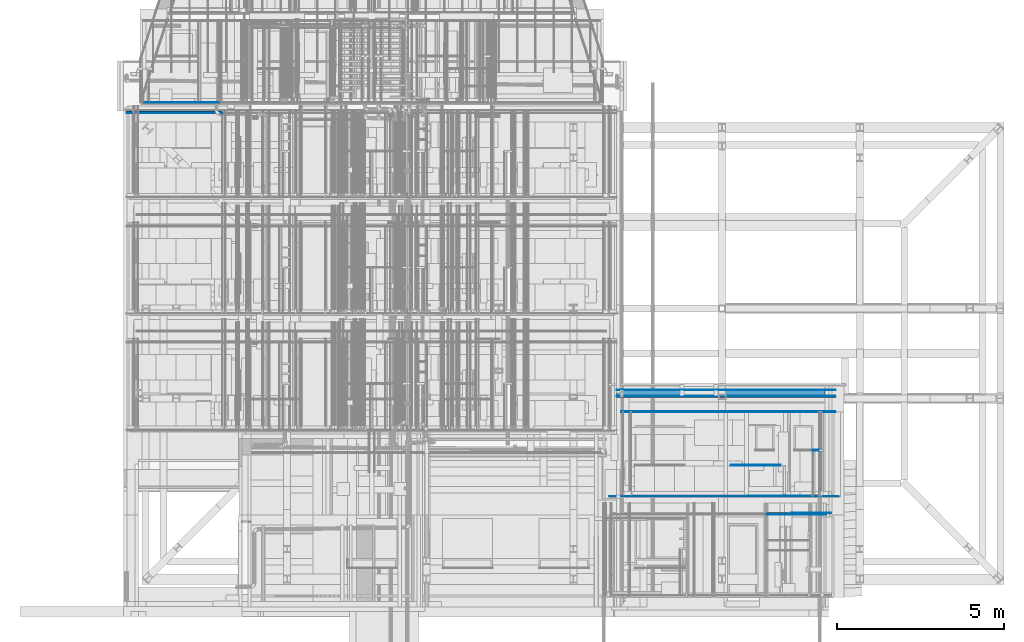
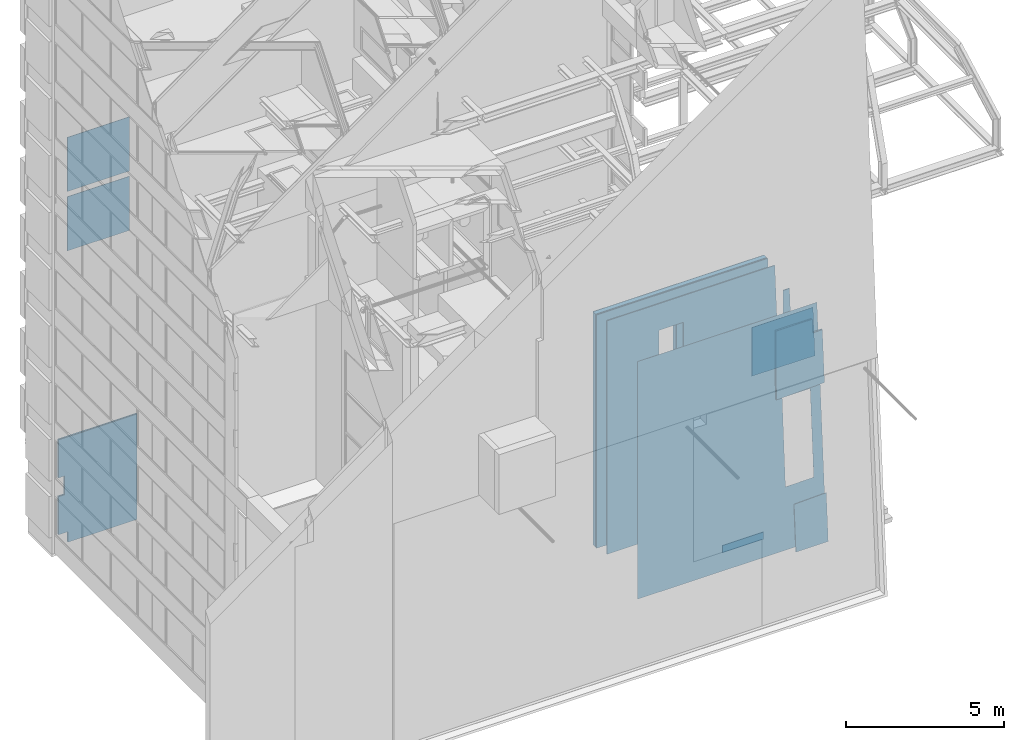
# One storey, part 260 of 583: 20 slabs.
"""IFC2X3 building model written with IfcOpenShell, lengths in metres."""

from ifc_helpers import new_model, entity, si_unit, converted_unit, derived_unit, money_unit, direction, frame, origin_with_axes, place, context, subcontext, project, spatial, faceted_brep, material, type_object, element, save


model = new_model("IFC2X3")

# Units and contexts
model_context = context("Model", 3, precision=1e-05, world=origin_with_axes(), true_north=direction((0.0, 1.0)))
body_context = subcontext(model_context, "Body", "Model", "MODEL_VIEW", scale=1.0)
ifc_project = project(units=[si_unit("LENGTHUNIT", "METRE"), si_unit("AREAUNIT", "SQUARE_METRE"), si_unit("VOLUMEUNIT", "CUBIC_METRE"), si_unit("ABSORBEDDOSEUNIT", "GRAY"), si_unit("AMOUNTOFSUBSTANCEUNIT", "MOLE"), si_unit("DOSEEQUIVALENTUNIT", "SIEVERT"), si_unit("ELECTRICCAPACITANCEUNIT", "FARAD"), si_unit("ELECTRICCHARGEUNIT", "COULOMB"), si_unit("ELECTRICCONDUCTANCEUNIT", "SIEMENS"), si_unit("ELECTRICCURRENTUNIT", "AMPERE"), si_unit("ELECTRICRESISTANCEUNIT", "OHM"), si_unit("ELECTRICVOLTAGEUNIT", "VOLT"), si_unit("ENERGYUNIT", "JOULE"), si_unit("FORCEUNIT", "NEWTON"), si_unit("FREQUENCYUNIT", "HERTZ"), si_unit("ILLUMINANCEUNIT", "LUX"), si_unit("INDUCTANCEUNIT", "HENRY"), si_unit("LUMINOUSFLUXUNIT", "LUMEN"), si_unit("LUMINOUSINTENSITYUNIT", "CANDELA"), si_unit("MAGNETICFLUXDENSITYUNIT", "TESLA"), si_unit("MAGNETICFLUXUNIT", "WEBER"), si_unit("MASSUNIT", "GRAM"), converted_unit("PLANEANGLEUNIT", "degree", entity("IfcReal", 0.0174532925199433), si_unit("PLANEANGLEUNIT", "RADIAN"), dimensions=[0, 0, 0, 0, 0, 0, 0]), si_unit("POWERUNIT", "WATT"), si_unit("PRESSUREUNIT", "PASCAL"), si_unit("RADIOACTIVITYUNIT", "BECQUEREL"), si_unit("SOLIDANGLEUNIT", "STERADIAN"), si_unit("THERMODYNAMICTEMPERATUREUNIT", "KELVIN"), si_unit("TIMEUNIT", "SECOND"), derived_unit("ACCELERATIONUNIT", [(si_unit("LENGTHUNIT", "METRE"), 1), (si_unit("TIMEUNIT", "SECOND"), -2)]), derived_unit("ANGULARVELOCITYUNIT", [(converted_unit("PLANEANGLEUNIT", "degree", entity("IfcReal", 0.0174532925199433), si_unit("PLANEANGLEUNIT", "RADIAN"), dimensions=[0, 0, 0, 0, 0, 0, 0]), 1), (si_unit("TIMEUNIT", "SECOND"), -1)]), derived_unit("CURVATUREUNIT", [(converted_unit("PLANEANGLEUNIT", "degree", entity("IfcReal", 0.0174532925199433), si_unit("PLANEANGLEUNIT", "RADIAN"), dimensions=[0, 0, 0, 0, 0, 0, 0]), 1), (si_unit("LENGTHUNIT", "METRE"), -1)]), derived_unit("DYNAMICVISCOSITYUNIT", [(si_unit("PRESSUREUNIT", "PASCAL"), 1), (si_unit("TIMEUNIT", "SECOND"), 1)]), derived_unit("HEATFLUXDENSITYUNIT", [(si_unit("POWERUNIT", "WATT"), 1), (si_unit("LENGTHUNIT", "METRE"), -2)]), derived_unit("HEATINGVALUEUNIT", [(si_unit("ENERGYUNIT", "JOULE"), 1), (si_unit("MASSUNIT", "GRAM"), -1)]), derived_unit("INTEGERCOUNTRATEUNIT", [(si_unit("TIMEUNIT", "SECOND"), -1)]), derived_unit("IONCONCENTRATIONUNIT", [(si_unit("MASSUNIT", "GRAM"), 1), (si_unit("VOLUMEUNIT", "CUBIC_METRE"), -1)]), derived_unit("ISOTHERMALMOISTURECAPACITYUNIT", [(si_unit("VOLUMEUNIT", "CUBIC_METRE"), 1), (si_unit("MASSUNIT", "GRAM"), -1)]), derived_unit("KINEMATICVISCOSITYUNIT", [(si_unit("AREAUNIT", "SQUARE_METRE"), 1), (si_unit("TIMEUNIT", "SECOND"), -1)]), derived_unit("LINEARFORCEUNIT", [(si_unit("FORCEUNIT", "NEWTON"), 1), (si_unit("LENGTHUNIT", "METRE"), -1)]), derived_unit("LINEARMOMENTUNIT", [(si_unit("FORCEUNIT", "NEWTON"), 1), (si_unit("LENGTHUNIT", "METRE"), -1)]), derived_unit("LINEARSTIFFNESSUNIT", [(si_unit("FORCEUNIT", "NEWTON"), 1), (si_unit("LENGTHUNIT", "METRE"), -1)]), derived_unit("LINEARVELOCITYUNIT", [(si_unit("LENGTHUNIT", "METRE"), 1), (si_unit("TIMEUNIT", "SECOND"), -1)]), derived_unit("LUMINOUSINTENSITYDISTRIBUTIONUNIT", [(si_unit("LUMINOUSINTENSITYUNIT", "CANDELA"), 1), (si_unit("LUMINOUSFLUXUNIT", "LUMEN"), -1)]), derived_unit("MASSDENSITYUNIT", [(si_unit("MASSUNIT", "GRAM"), 1), (si_unit("VOLUMEUNIT", "CUBIC_METRE"), -1)]), derived_unit("MASSFLOWRATEUNIT", [(si_unit("MASSUNIT", "GRAM"), 1), (si_unit("TIMEUNIT", "SECOND"), -1)]), derived_unit("MASSPERLENGTHUNIT", [(si_unit("MASSUNIT", "GRAM"), 1), (si_unit("LENGTHUNIT", "METRE"), -1)]), derived_unit("MODULUSOFELASTICITYUNIT", [(si_unit("FORCEUNIT", "NEWTON"), 1), (si_unit("AREAUNIT", "SQUARE_METRE"), -1)]), derived_unit("MODULUSOFLINEARSUBGRADEREACTIONUNIT", [(si_unit("FORCEUNIT", "NEWTON"), 1), (si_unit("LENGTHUNIT", "METRE"), -2)]), derived_unit("MODULUSOFROTATIONALSUBGRADEREACTIONUNIT", [(si_unit("FORCEUNIT", "NEWTON"), 1), (si_unit("LENGTHUNIT", "METRE"), 1)]), derived_unit("MODULUSOFSUBGRADEREACTIONUNIT", [(si_unit("FORCEUNIT", "NEWTON"), 1), (si_unit("VOLUMEUNIT", "CUBIC_METRE"), -1)]), derived_unit("MOISTUREDIFFUSIVITYUNIT", [(si_unit("VOLUMEUNIT", "CUBIC_METRE"), 1), (si_unit("TIMEUNIT", "SECOND"), -1)]), derived_unit("MOLECULARWEIGHTUNIT", [(si_unit("MASSUNIT", "GRAM"), 1), (si_unit("AMOUNTOFSUBSTANCEUNIT", "MOLE"), -1)]), derived_unit("PLANARFORCEUNIT", [(si_unit("FORCEUNIT", "NEWTON"), 1), (si_unit("LENGTHUNIT", "METRE"), -2)]), derived_unit("ROTATIONALFREQUENCYUNIT", [(si_unit("TIMEUNIT", "SECOND"), -1)]), derived_unit("ROTATIONALMASSUNIT", [(si_unit("MASSUNIT", "GRAM"), 1), (si_unit("LENGTHUNIT", "METRE"), 2)]), derived_unit("ROTATIONALSTIFFNESSUNIT", [(si_unit("FORCEUNIT", "NEWTON"), 1), (si_unit("LENGTHUNIT", "METRE"), 1), (converted_unit("PLANEANGLEUNIT", "degree", entity("IfcReal", 0.0174532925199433), si_unit("PLANEANGLEUNIT", "RADIAN"), dimensions=[0, 0, 0, 0, 0, 0, 0]), -1)]), derived_unit("SECTIONAREAINTEGRALUNIT", [(si_unit("LENGTHUNIT", "METRE"), 5)]), derived_unit("SECTIONMODULUSUNIT", [(si_unit("LENGTHUNIT", "METRE"), 3)]), derived_unit("SHEARMODULUSUNIT", [(si_unit("FORCEUNIT", "NEWTON"), 1), (si_unit("AREAUNIT", "SQUARE_METRE"), -1)]), derived_unit("SOUNDPOWERUNIT", [(si_unit("ENERGYUNIT", "JOULE"), 1), (si_unit("TIMEUNIT", "SECOND"), -1)]), derived_unit("SPECIFICHEATCAPACITYUNIT", [(si_unit("FORCEUNIT", "NEWTON"), 1), (si_unit("MASSUNIT", "GRAM"), -1), (si_unit("THERMODYNAMICTEMPERATUREUNIT", "KELVIN"), -1)]), derived_unit("TEMPERATUREGRADIENTUNIT", [(si_unit("THERMODYNAMICTEMPERATUREUNIT", "KELVIN"), 1), (si_unit("LENGTHUNIT", "METRE"), -1)]), derived_unit("THERMALADMITTANCEUNIT", [(si_unit("POWERUNIT", "WATT"), 1), (si_unit("AREAUNIT", "SQUARE_METRE"), -1), (si_unit("THERMODYNAMICTEMPERATUREUNIT", "KELVIN"), -1)]), derived_unit("THERMALCONDUCTANCEUNIT", [(si_unit("POWERUNIT", "WATT"), 1), (si_unit("LENGTHUNIT", "METRE"), -1), (si_unit("THERMODYNAMICTEMPERATUREUNIT", "KELVIN"), -1)]), derived_unit("THERMALEXPANSIONCOEFFICIENTUNIT", [(si_unit("THERMODYNAMICTEMPERATUREUNIT", "KELVIN"), -1)]), derived_unit("THERMALRESISTANCEUNIT", [(si_unit("AREAUNIT", "SQUARE_METRE"), 1), (si_unit("POWERUNIT", "WATT"), -1)]), derived_unit("THERMALTRANSMITTANCEUNIT", [(si_unit("POWERUNIT", "WATT"), 1), (si_unit("AREAUNIT", "SQUARE_METRE"), -1), (si_unit("THERMODYNAMICTEMPERATUREUNIT", "KELVIN"), -1)]), derived_unit("TORQUEUNIT", [(si_unit("FORCEUNIT", "NEWTON"), 1), (si_unit("LENGTHUNIT", "METRE"), 1)]), derived_unit("VAPORPERMEABILITYUNIT", [(si_unit("MASSUNIT", "GRAM"), 1), (si_unit("TIMEUNIT", "SECOND"), -1)]), derived_unit("VOLUMETRICFLOWRATEUNIT", [(si_unit("VOLUMEUNIT", "CUBIC_METRE"), 1), (si_unit("TIMEUNIT", "SECOND"), -1)]), derived_unit("WARPINGCONSTANTUNIT", [(si_unit("LENGTHUNIT", "METRE"), 6)]), derived_unit("WARPINGMOMENTUNIT", [(si_unit("FORCEUNIT", "NEWTON"), 1), (si_unit("LENGTHUNIT", "METRE"), 2)]), money_unit("GBP")], contexts=[model_context])

# Site, building, storey
site_placement = place(None, origin_with_axes())
site = spatial("IfcSite", under=ifc_project, at=site_placement, Name="Site", CompositionType="ELEMENT")
building_placement = place(site_placement, origin_with_axes())
building = spatial("IfcBuilding", under=site, at=building_placement, Name="Building01", CompositionType="ELEMENT")
storey_placement = place(building_placement, frame((0.0, 0.0, 20.78), z_axis=(0.0, 0.0, 1.0), x_axis=(1.0, 0.0, 0.0)))
storey = spatial("IfcBuildingStorey", under=building, at=storey_placement, Name="RL", CompositionType="ELEMENT", Elevation=20.78)

# Slabs
ifc_material_1 = material(Name="A_BSUK_CeilingSoffitFinishes_Suspended")
slab_type_1 = type_object("IfcSlabType", Name="A-FloorsSlabs A_BSUK_Slabs", PredefinedType="FLOOR")
placement = place(storey_placement, frame((0.0, 0.0, -20.78), z_axis=(0.0, 0.0, 1.0), x_axis=(1.0, 0.0, 0.0)))
element("IfcSlab", 1, at=placement, inside=storey, type_object=slab_type_1, material=ifc_material_1, Name="A-FloorsSlabs A_BSUK_Slabs", ObjectType="CompoundSlabLeaf", context=body_context, shape_type="Brep", body=[
    faceted_brep([(20.061719, 2.648, 0.352897), (20.061719, 2.663, 0.352897), (21.240404, 2.663, 0.352897), (21.240404, 2.648, 0.352897), (19.992487, 2.648, 2.218549), (19.992487, 2.663, 2.218549), (21.074618, 2.648, 2.255765), (21.074618, 2.663, 2.255765), (21.169698, 2.648, 2.259035), (21.169698, 2.663, 2.259035)], [[[0, 1, 2, 3]], [[4, 5, 1, 0]], [[6, 7, 5, 4]], [[8, 9, 7, 6]], [[3, 2, 9, 8]], [[1, 5, 7, 9, 2]], [[3, 8, 6, 4, 0]]]),
])
element("IfcSlab", 2, at=placement, inside=storey, type_object=slab_type_1, material=ifc_material_1, Name="A-FloorsSlabs A_BSUK_Slabs", ObjectType="CompoundSlabLeaf", context=body_context, shape_type="Brep", body=[
    faceted_brep([(21.082305, 2.6125, 6.556698), (21.082305, 2.625, 6.556698), (21.00546, 2.625, 8.628099), (21.00546, 2.6125, 8.628099), (19.325402, 2.6125, 6.497539), (19.325402, 2.625, 6.497539), (19.307574, 2.6125, 9.154265), (19.307574, 2.625, 9.154265), (20.635466, 2.6125, 9.154265), (20.635466, 2.625, 9.154265), (20.65458, 2.6125, 8.611883), (20.65458, 2.625, 8.611883)], [[[0, 1, 2, 3]], [[4, 5, 1, 0]], [[6, 7, 5, 4]], [[8, 9, 7, 6]], [[10, 11, 9, 8]], [[3, 2, 11, 10]], [[1, 5, 7, 9, 11, 2]], [[3, 10, 8, 6, 4, 0]]]),
])
ifc_material_2 = material(Name="A_BSUK_Ceramic_WallTiles")
element("IfcSlab", 3, at=placement, inside=storey, type_object=slab_type_1, material=ifc_material_2, Name="A-FloorsSlabs A_BSUK_Slabs", ObjectType="CompoundSlabLeaf", context=body_context, shape_type="Brep", body=[
    faceted_brep([(20.683903, 4.535, 8.074417), (20.683903, 4.56, 8.074417), (20.953963, 4.56, 8.074417), (20.953963, 4.535, 8.074417), (20.683903, 4.535, 9.082265), (20.683903, 4.56, 9.082265), (20.916574, 4.535, 9.082265), (20.916574, 4.56, 9.082265)], [[[0, 1, 2, 3]], [[4, 5, 1, 0]], [[6, 7, 5, 4]], [[3, 2, 7, 6]], [[1, 5, 7, 2]], [[3, 6, 4, 0]]]),
])
ifc_material_3 = material(Name="A_BSUK_Ceramic_FloorTiles")
element("IfcSlab", 4, at=placement, inside=storey, type_object=slab_type_1, material=ifc_material_3, Name="A-FloorsSlabs A_BSUK_Slabs", ObjectType="CompoundSlabLeaf", context=body_context, shape_type="Brep", body=[
    faceted_brep([(21.056086, 3.17, 7.263451), (21.056086, 3.182, 7.263451), (20.985941, 3.182, 9.154265), (20.985941, 3.17, 9.154265), (18.752607, 3.17, 7.275966), (18.752607, 3.182, 7.275966), (18.752607, 3.17, 9.154265), (18.752607, 3.182, 9.154265)], [[[0, 1, 2, 3]], [[4, 5, 1, 0]], [[6, 7, 5, 4]], [[3, 2, 7, 6]], [[1, 5, 7, 2]], [[3, 6, 4, 0]]]),
])
ifc_material_4 = material(Name="A_BSUK_Timber_Miscellaneous")
element("IfcSlab", 5, at=placement, inside=storey, type_object=slab_type_1, material=ifc_material_4, Name="A-FloorsSlabs A_BSUK_Slabs", ObjectType="CompoundSlabLeaf", context=body_context, shape_type="Brep", body=[
    faceted_brep([(19.714248, 4.085, 0.103351), (19.714248, 4.11, 0.103351), (19.714248, 4.11, 0.383679), (19.714248, 4.085, 0.383679), (18.214248, 4.085, 0.103351), (18.214248, 4.11, 0.103351), (18.214248, 4.085, 0.383679), (18.214248, 4.11, 0.383679)], [[[0, 1, 2, 3]], [[4, 5, 1, 0]], [[6, 7, 5, 4]], [[3, 2, 7, 6]], [[1, 5, 7, 2]], [[3, 6, 4, 0]]]),
])
ifc_material_5 = material(Name="A_BSUK_Insulation")
element("IfcSlab", 6, at=placement, inside=storey, type_object=slab_type_1, material=ifc_material_5, Name="A-FloorsSlabs A_BSUK_Slabs", ObjectType="CompoundSlabLeaf", context=body_context, shape_type="Brep", body=[
    faceted_brep([(14.800006, 6.345, 9.226315), (21.045273, 6.345, 9.225486), (21.37914, 6.345, 0.225871), (14.799995, 6.345, 0.225624), (17.72, 6.345, 8.197414), (16.82, 6.345, 8.197414), (16.82, 6.345, 6.697414), (17.72, 6.345, 6.697414), (17.72, 6.345, 5.157414), (16.82, 6.345, 5.157414), (16.82, 6.345, 3.657414), (17.72, 6.345, 3.657414), (14.799995, 6.185, 0.225624), (21.37914, 6.185, 0.225871), (21.045273, 6.185, 9.225486), (14.800006, 6.185, 9.226315), (17.72, 6.185, 8.197414), (17.72, 6.185, 6.697414), (16.82, 6.185, 6.697414), (16.82, 6.185, 8.197414), (17.72, 6.185, 5.157414), (17.72, 6.185, 3.657414), (16.82, 6.185, 3.657414), (16.82, 6.185, 5.157414)], [[[0, 1, 2, 3], [4, 5, 6, 7], [8, 9, 10, 11]], [[12, 13, 14, 15], [16, 17, 18, 19], [20, 21, 22, 23]], [[15, 0, 3, 12]], [[14, 1, 0, 15]], [[13, 2, 1, 14]], [[12, 3, 2, 13]], [[7, 17, 16, 4]], [[4, 16, 19, 5]], [[5, 19, 18, 6]], [[6, 18, 17, 7]], [[11, 21, 20, 8]], [[8, 20, 23, 9]], [[9, 23, 22, 10]], [[10, 22, 21, 11]]]),
])
element("IfcSlab", 7, at=placement, inside=storey, type_object=slab_type_1, material=ifc_material_4, Name="A-FloorsSlabs A_BSUK_Slabs", ObjectType="CompoundSlabLeaf", context=body_context, shape_type="Brep", body=[
    faceted_brep([(14.800006, 6.363, 9.226315), (21.045273, 6.363, 9.225486), (21.37914, 6.363, 0.225871), (14.799995, 6.363, 0.225624), (17.84, 6.363, 8.317414), (16.7, 6.363, 8.317414), (16.7, 6.363, 6.577414), (17.84, 6.363, 6.577414), (17.84, 6.363, 5.277414), (16.7, 6.363, 5.277414), (16.7, 6.363, 3.537414), (17.84, 6.363, 3.537414), (14.799995, 6.345, 0.225624), (21.37914, 6.345, 0.225871), (21.045273, 6.345, 9.225486), (14.800006, 6.345, 9.226315), (17.84, 6.345, 8.317414), (17.84, 6.345, 6.577414), (16.7, 6.345, 6.577414), (16.7, 6.345, 8.317414), (17.84, 6.345, 5.277414), (17.84, 6.345, 3.537414), (16.7, 6.345, 3.537414), (16.7, 6.345, 5.277414)], [[[0, 1, 2, 3], [4, 5, 6, 7], [8, 9, 10, 11]], [[12, 13, 14, 15], [16, 17, 18, 19], [20, 21, 22, 23]], [[15, 0, 3, 12]], [[14, 1, 0, 15]], [[13, 2, 1, 14]], [[12, 3, 2, 13]], [[7, 17, 16, 4]], [[4, 16, 19, 5]], [[5, 19, 18, 6]], [[6, 18, 17, 7]], [[11, 21, 20, 8]], [[8, 20, 23, 9]], [[9, 23, 22, 10]], [[10, 22, 21, 11]]]),
])
ifc_material_6 = material(Name="A_BSUK_Roofs")
element("IfcSlab", 8, at=placement, inside=storey, type_object=slab_type_1, material=ifc_material_6, Name="A-FloorsSlabs A_BSUK_Slabs", ObjectType="CompoundSlabLeaf", context=body_context, shape_type="Brep", body=[
    faceted_brep([(14.800006, 6.363, 9.226315), (14.800006, 6.365, 9.226315), (14.799995, 6.365, 0.225624), (14.799995, 6.363, 0.225624), (21.045273, 6.363, 9.225486), (21.045273, 6.365, 9.225486), (21.37914, 6.363, 0.225871), (21.37914, 6.365, 0.225871), (17.84, 6.365, 6.577414), (17.84, 6.365, 8.317414), (16.7, 6.365, 8.317414), (16.7, 6.365, 6.577414), (17.84, 6.365, 3.537414), (17.84, 6.365, 5.277414), (16.7, 6.365, 5.277414), (16.7, 6.365, 3.537414), (17.84, 6.363, 6.577414), (16.7, 6.363, 6.577414), (16.7, 6.363, 8.317414), (17.84, 6.363, 8.317414), (17.84, 6.363, 3.537414), (16.7, 6.363, 3.537414), (16.7, 6.363, 5.277414), (17.84, 6.363, 5.277414)], [[[0, 1, 2, 3]], [[4, 5, 1, 0]], [[6, 7, 5, 4]], [[3, 2, 7, 6]], [[1, 5, 7, 2], [8, 9, 10, 11], [12, 13, 14, 15]], [[3, 6, 4, 0], [16, 17, 18, 19], [20, 21, 22, 23]], [[8, 16, 19, 9]], [[9, 19, 18, 10]], [[10, 18, 17, 11]], [[11, 17, 16, 8]], [[12, 20, 23, 13]], [[13, 23, 22, 14]], [[14, 22, 21, 15]], [[15, 21, 20, 12]]]),
])
ifc_material_7 = material(Name="A_BSUK_ExpandedPolystyreneBoards")
element("IfcSlab", 9, at=placement, inside=storey, type_object=slab_type_1, material=ifc_material_7, Name="A-FloorsSlabs A_BSUK_Slabs", ObjectType="CompoundSlabLeaf", context=body_context, shape_type="Brep", body=[
    faceted_brep([(14.580001, 3.167, 9.303038), (14.580001, 3.17, 9.303038), (14.580016, 3.17, 0.668282), (14.580016, 3.167, 0.668282), (21.127455, 3.167, 9.303038), (21.127455, 3.17, 9.303038), (21.46733, 3.167, 0.140679), (21.46733, 3.17, 0.140679), (21.436217, 3.167, 0.140679), (21.436217, 3.17, 0.140679), (14.580006, 3.167, 0.140679), (14.580006, 3.17, 0.140679), (14.580006, 3.167, 0.668282), (14.580006, 3.17, 0.668282), (21.008386, 3.17, 2.600185), (20.880804, 3.17, 6.062509), (19.859391, 3.17, 6.06243), (19.979174, 3.17, 2.584185), (21.008386, 3.167, 2.600185), (19.979174, 3.167, 2.584185), (19.859391, 3.167, 6.06243), (20.880804, 3.167, 6.062509)], [[[0, 1, 2, 3]], [[4, 5, 1, 0]], [[6, 7, 5, 4]], [[8, 9, 7, 6]], [[10, 11, 9, 8]], [[12, 13, 11, 10]], [[3, 2, 13, 12]], [[1, 5, 7, 9, 11, 13, 2], [14, 15, 16, 17]], [[3, 12, 10, 8, 6, 4, 0], [18, 19, 20, 21]], [[18, 14, 17, 19]], [[19, 17, 16, 20]], [[20, 16, 15, 21]], [[21, 15, 14, 18]]]),
])
element("IfcSlab", 10, at=placement, inside=storey, type_object=slab_type_1, material=ifc_material_1, Name="A-FloorsSlabs A_BSUK_Slabs", ObjectType="CompoundSlabLeaf", context=body_context, shape_type="Brep", body=[
    faceted_brep([(14.93, 5.715, 9.226298), (21.045273, 5.715, 9.225486), (21.37914, 5.715, 0.225871), (14.93, 5.715, 0.225624), (17.72, 5.715, 8.197414), (16.82, 5.715, 8.197414), (16.82, 5.715, 6.697414), (17.72, 5.715, 6.697414), (17.72, 5.715, 5.157414), (16.82, 5.715, 5.157414), (16.82, 5.715, 3.657414), (17.72, 5.715, 3.657414), (14.93, 5.7, 0.225624), (21.37914, 5.7, 0.225871), (21.045273, 5.7, 9.225486), (14.93, 5.7, 9.226298), (17.72, 5.7, 8.197414), (17.72, 5.7, 6.697414), (16.82, 5.7, 6.697414), (16.82, 5.7, 8.197414), (17.72, 5.7, 5.157414), (17.72, 5.7, 3.657414), (16.82, 5.7, 3.657414), (16.82, 5.7, 5.157414)], [[[0, 1, 2, 3], [4, 5, 6, 7], [8, 9, 10, 11]], [[12, 13, 14, 15], [16, 17, 18, 19], [20, 21, 22, 23]], [[15, 0, 3, 12]], [[14, 1, 0, 15]], [[13, 2, 1, 14]], [[12, 3, 2, 13]], [[7, 17, 16, 4]], [[4, 16, 19, 5]], [[5, 19, 18, 6]], [[6, 18, 17, 7]], [[11, 21, 20, 8]], [[8, 20, 23, 9]], [[9, 23, 22, 10]], [[10, 22, 21, 11]]]),
])
ifc_material_8 = material(Name="A_BSUK_InternalFinishesCeilingOrSoffit")
element("IfcSlab", 11, at=placement, inside=storey, type_object=slab_type_1, material=ifc_material_8, Name="A-FloorsSlabs A_BSUK_Slabs", ObjectType="CompoundSlabLeaf", context=body_context, shape_type="Brep", body=[
    faceted_brep([(14.800006, 6.167, 9.226315), (21.045273, 6.167, 9.225486), (21.37914, 6.167, 0.225871), (14.799995, 6.167, 0.225624), (17.72, 6.167, 8.197414), (16.82, 6.167, 8.197414), (16.82, 6.167, 6.697414), (17.72, 6.167, 6.697414), (17.72, 6.167, 5.157414), (16.82, 6.167, 5.157414), (16.82, 6.167, 3.657414), (17.72, 6.167, 3.657414), (14.799995, 6.132, 0.225624), (21.37914, 6.132, 0.225871), (21.045273, 6.132, 9.225486), (14.800006, 6.132, 9.226315), (17.72, 6.132, 8.197414), (17.72, 6.132, 6.697414), (16.82, 6.132, 6.697414), (16.82, 6.132, 8.197414), (17.72, 6.132, 5.157414), (17.72, 6.132, 3.657414), (16.82, 6.132, 3.657414), (16.82, 6.132, 5.157414)], [[[0, 1, 2, 3], [4, 5, 6, 7], [8, 9, 10, 11]], [[12, 13, 14, 15], [16, 17, 18, 19], [20, 21, 22, 23]], [[15, 0, 3, 12]], [[14, 1, 0, 15]], [[13, 2, 1, 14]], [[12, 3, 2, 13]], [[7, 17, 16, 4]], [[4, 16, 19, 5]], [[5, 19, 18, 6]], [[6, 18, 17, 7]], [[11, 21, 20, 8]], [[8, 20, 23, 9]], [[9, 23, 22, 10]], [[10, 22, 21, 11]]]),
])
ifc_material_9 = material(Name="A_BSUK_InternalFinishes_FloorScreed")
element("IfcSlab", 12, at=placement, inside=storey, type_object=slab_type_1, material=ifc_material_9, Name="A-FloorsSlabs A_BSUK_Slabs", ObjectType="CompoundSlabLeaf", context=body_context, shape_type="Brep", body=[
    faceted_brep([(14.800006, 6.185, 9.226315), (21.045273, 6.185, 9.225486), (21.37914, 6.185, 0.225871), (14.799995, 6.185, 0.225624), (17.72, 6.185, 8.197414), (16.82, 6.185, 8.197414), (16.82, 6.185, 6.697414), (17.72, 6.185, 6.697414), (17.72, 6.185, 5.157414), (16.82, 6.185, 5.157414), (16.82, 6.185, 3.657414), (17.72, 6.185, 3.657414), (14.799995, 6.167, 0.225624), (21.37914, 6.167, 0.225871), (21.045273, 6.167, 9.225486), (14.800006, 6.167, 9.226315), (17.72, 6.167, 8.197414), (17.72, 6.167, 6.697414), (16.82, 6.167, 6.697414), (16.82, 6.167, 8.197414), (17.72, 6.167, 5.157414), (17.72, 6.167, 3.657414), (16.82, 6.167, 3.657414), (16.82, 6.167, 5.157414)], [[[0, 1, 2, 3], [4, 5, 6, 7], [8, 9, 10, 11]], [[12, 13, 14, 15], [16, 17, 18, 19], [20, 21, 22, 23]], [[15, 0, 3, 12]], [[14, 1, 0, 15]], [[13, 2, 1, 14]], [[12, 3, 2, 13]], [[7, 17, 16, 4]], [[4, 16, 19, 5]], [[5, 19, 18, 6]], [[6, 18, 17, 7]], [[11, 21, 20, 8]], [[8, 20, 23, 9]], [[9, 23, 22, 10]], [[10, 22, 21, 11]]]),
])
element("IfcSlab", 13, at=placement, inside=storey, type_object=slab_type_1, material=ifc_material_1, Name="A-FloorsSlabs A_BSUK_Slabs", ObjectType="CompoundSlabLeaf", context=body_context, shape_type="Brep", body=[
    faceted_brep([(14.93, 5.7, 9.226298), (21.045273, 5.7, 9.225486), (21.37914, 5.7, 0.225871), (14.93, 5.7, 0.225624), (17.72, 5.7, 8.197414), (16.82, 5.7, 8.197414), (16.82, 5.7, 6.697414), (17.72, 5.7, 6.697414), (17.72, 5.7, 5.157414), (16.82, 5.7, 5.157414), (16.82, 5.7, 3.657414), (17.72, 5.7, 3.657414), (14.93, 5.685, 0.225624), (21.37914, 5.685, 0.225871), (21.045273, 5.685, 9.225486), (14.93, 5.685, 9.226298), (17.72, 5.685, 8.197414), (17.72, 5.685, 6.697414), (16.82, 5.685, 6.697414), (16.82, 5.685, 8.197414), (17.72, 5.685, 5.157414), (17.72, 5.685, 3.657414), (16.82, 5.685, 3.657414), (16.82, 5.685, 5.157414)], [[[0, 1, 2, 3], [4, 5, 6, 7], [8, 9, 10, 11]], [[12, 13, 14, 15], [16, 17, 18, 19], [20, 21, 22, 23]], [[15, 0, 3, 12]], [[14, 1, 0, 15]], [[13, 2, 1, 14]], [[12, 3, 2, 13]], [[7, 17, 16, 4]], [[4, 16, 19, 5]], [[5, 19, 18, 6]], [[6, 18, 17, 7]], [[11, 21, 20, 8]], [[8, 20, 23, 9]], [[9, 23, 22, 10]], [[10, 22, 21, 11]]]),
])
element("IfcSlab", 14, at=placement, inside=storey, type_object=slab_type_1, material=ifc_material_1, Name="A-FloorsSlabs A_BSUK_Slabs", ObjectType="CompoundSlabLeaf", context=body_context, shape_type="Brep", body=[
    faceted_brep([(0.448, 14.658, 0.318), (0.448, 14.673, 0.318), (2.970286, 14.673, 0.318), (2.970286, 14.658, 0.318), (0.448, 14.658, 0.725), (0.448, 14.673, 0.725), (0.1, 14.658, 0.725), (0.1, 14.673, 0.725), (0.1, 14.658, 2.195), (0.1, 14.673, 2.195), (0.318, 14.658, 2.195), (0.318, 14.673, 2.195), (0.318, 14.658, 2.915), (0.318, 14.673, 2.915), (0.1, 14.658, 2.915), (0.1, 14.673, 2.915), (0.1, 14.658, 4.385), (0.1, 14.673, 4.385), (2.970286, 14.658, 4.385), (2.970286, 14.673, 4.385)], [[[0, 1, 2, 3]], [[4, 5, 1, 0]], [[6, 7, 5, 4]], [[8, 9, 7, 6]], [[10, 11, 9, 8]], [[12, 13, 11, 10]], [[14, 15, 13, 12]], [[16, 17, 15, 14]], [[18, 19, 17, 16]], [[3, 2, 19, 18]], [[1, 5, 7, 9, 11, 13, 15, 17, 19, 2]], [[3, 18, 16, 14, 12, 10, 8, 6, 4, 0]]]),
])
element("IfcSlab", 15, at=placement, inside=storey, type_object=slab_type_1, material=ifc_material_7, Name="A-FloorsSlabs A_BSUK_Slabs", ObjectType="CompoundSlabLeaf", context=body_context, shape_type="Brep", body=[
    faceted_brep([(0.6038, 14.965, 11.31), (0.6038, 14.968, 11.31), (2.869761, 14.968, 11.31), (2.869761, 14.965, 11.31), (0.6038, 14.965, 11.830024), (0.6038, 14.968, 11.830024), (0.6038, 14.965, 13.4), (0.6038, 14.968, 13.4), (2.869761, 14.965, 13.4), (2.869761, 14.968, 13.4)], [[[0, 1, 2, 3]], [[4, 5, 1, 0]], [[6, 7, 5, 4]], [[8, 9, 7, 6]], [[3, 2, 9, 8]], [[1, 5, 7, 9, 2]], [[3, 8, 6, 4, 0]]]),
])
element("IfcSlab", 16, at=placement, inside=storey, type_object=slab_type_1, material=ifc_material_7, Name="A-FloorsSlabs A_BSUK_Slabs", ObjectType="CompoundSlabLeaf", context=body_context, shape_type="Brep", body=[
    faceted_brep([(0.6038, 14.965, 13.6), (0.6038, 14.968, 13.6), (2.869761, 14.968, 13.6), (2.869761, 14.965, 13.6), (0.6038, 14.965, 14.020024), (0.6038, 14.968, 14.020024), (0.6038, 14.965, 15.170024), (0.6038, 14.968, 15.170024), (0.6038, 14.965, 15.69), (0.6038, 14.968, 15.69), (2.869761, 14.965, 15.69), (2.869761, 14.968, 15.69)], [[[0, 1, 2, 3]], [[4, 5, 1, 0]], [[6, 7, 5, 4]], [[8, 9, 7, 6]], [[10, 11, 9, 8]], [[3, 2, 11, 10]], [[1, 5, 7, 9, 11, 2]], [[3, 10, 8, 6, 4, 0]]]),
])
slab_type_2 = type_object("IfcSlabType", Name="A-Finishes A_BSUK_Ceramic_FloorTiles", PredefinedType="FLOOR")
element("IfcSlab", 17, at=placement, inside=storey, type_object=slab_type_2, material=ifc_material_3, Name="A-Finishes A_BSUK_Ceramic_FloorTiles", ObjectType="CompoundSlabLeaf", context=body_context, shape_type="Brep", body=[
    faceted_brep([(0.6038, 14.968, 11.31), (0.6038, 14.98, 11.31), (2.869761, 14.98, 11.31), (2.869761, 14.968, 11.31), (0.6038, 14.968, 11.830024), (0.6038, 14.98, 11.830024), (0.6038, 14.968, 13.4), (0.6038, 14.98, 13.4), (2.869761, 14.968, 13.4), (2.869761, 14.98, 13.4)], [[[0, 1, 2, 3]], [[4, 5, 1, 0]], [[6, 7, 5, 4]], [[8, 9, 7, 6]], [[3, 2, 9, 8]], [[1, 5, 7, 9, 2]], [[3, 8, 6, 4, 0]]]),
])
element("IfcSlab", 18, at=placement, inside=storey, type_object=slab_type_2, material=ifc_material_3, Name="A-Finishes A_BSUK_Ceramic_FloorTiles", ObjectType="CompoundSlabLeaf", context=body_context, shape_type="Brep", body=[
    faceted_brep([(0.6038, 14.968, 13.6), (0.6038, 14.98, 13.6), (2.869761, 14.98, 13.6), (2.869761, 14.968, 13.6), (0.6038, 14.968, 14.020024), (0.6038, 14.98, 14.020024), (0.6038, 14.968, 15.170024), (0.6038, 14.98, 15.170024), (0.6038, 14.968, 15.69), (0.6038, 14.98, 15.69), (2.869761, 14.968, 15.69), (2.869761, 14.98, 15.69)], [[[0, 1, 2, 3]], [[4, 5, 1, 0]], [[6, 7, 5, 4]], [[8, 9, 7, 6]], [[10, 11, 9, 8]], [[3, 2, 11, 10]], [[1, 5, 7, 9, 11, 2]], [[3, 10, 8, 6, 4, 0]]]),
])
slab_type_3 = type_object("IfcSlabType", Name="A-FloorsSlabs A_BSUK_ExpandedPolystyreneBoards", PredefinedType="FLOOR")
element("IfcSlab", 19, at=placement, inside=storey, type_object=slab_type_3, material=ifc_material_7, Name="A-FloorsSlabs A_BSUK_ExpandedPolystyreneBoards", ObjectType="CompoundSlabLeaf", context=body_context, shape_type="Brep", body=[
    faceted_brep([(21.082305, 2.625, 6.556698), (21.082305, 2.675, 6.556698), (21.00546, 2.675, 8.628099), (21.00546, 2.625, 8.628099), (19.325402, 2.625, 6.497539), (19.325402, 2.675, 6.497539), (19.307574, 2.625, 9.154265), (19.307574, 2.675, 9.154265), (20.635466, 2.625, 9.154265), (20.635466, 2.675, 9.154265), (20.65458, 2.625, 8.611883), (20.65458, 2.675, 8.611883)], [[[0, 1, 2, 3]], [[4, 5, 1, 0]], [[6, 7, 5, 4]], [[8, 9, 7, 6]], [[10, 11, 9, 8]], [[3, 2, 11, 10]], [[1, 5, 7, 9, 11, 2]], [[3, 10, 8, 6, 4, 0]]]),
])
element("IfcSlab", 20, at=placement, inside=storey, type_object=slab_type_3, material=ifc_material_7, Name="A-FloorsSlabs A_BSUK_ExpandedPolystyreneBoards", ObjectType="CompoundSlabLeaf", context=body_context, shape_type="Brep", body=[
    faceted_brep([(0.448, 14.673, 0.318), (0.448, 14.723, 0.318), (2.970286, 14.723, 0.318), (2.970286, 14.673, 0.318), (0.448, 14.673, 0.725), (0.448, 14.723, 0.725), (0.1, 14.673, 0.725), (0.1, 14.723, 0.725), (0.1, 14.673, 2.195), (0.1, 14.723, 2.195), (0.318, 14.673, 2.195), (0.318, 14.723, 2.195), (0.318, 14.673, 2.915), (0.318, 14.723, 2.915), (0.1, 14.673, 2.915), (0.1, 14.723, 2.915), (0.1, 14.673, 4.385), (0.1, 14.723, 4.385), (2.970286, 14.673, 4.385), (2.970286, 14.723, 4.385)], [[[0, 1, 2, 3]], [[4, 5, 1, 0]], [[6, 7, 5, 4]], [[8, 9, 7, 6]], [[10, 11, 9, 8]], [[12, 13, 11, 10]], [[14, 15, 13, 12]], [[16, 17, 15, 14]], [[18, 19, 17, 16]], [[3, 2, 19, 18]], [[1, 5, 7, 9, 11, 13, 15, 17, 19, 2]], [[3, 18, 16, 14, 12, 10, 8, 6, 4, 0]]]),
])

save(model, "model.ifc")
